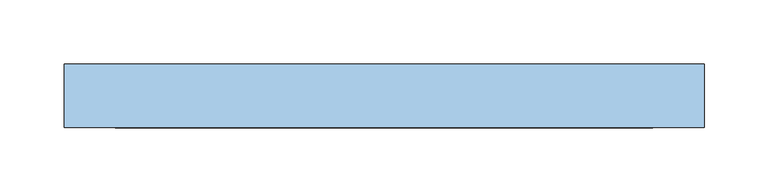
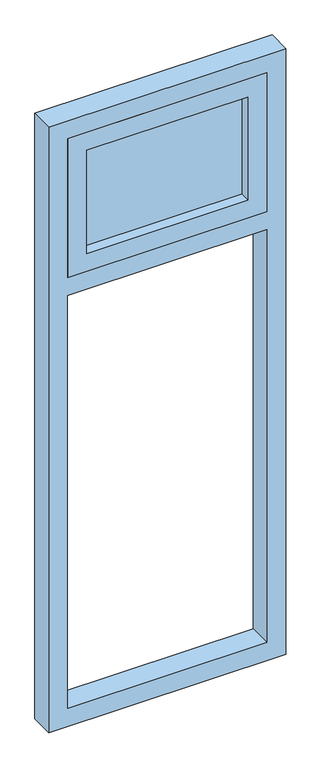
"""IFC4 building model written with IfcOpenShell, lengths in millimetres: window geometry, VENT_ALUM_PROY_ARRIBA : V10-VENT_ALUM_PROY_ARRIBA BAÑO."""

from ifc_helpers import new_model, si_unit, frame, origin, place, context, project, spatial, polyline, outline, extrude, source, transform, mapped, element, save


def window_504e83ce(model_context):
    return source(origin(), model_context, "Body", "SweptSolid", [
        extrude(outline(polyline([(1500.0, -210.0), (1500.0, 210.0), (1810.0, 210.0), (1810.0, -210.0), (1500.0, -210.0)]), holes=[polyline([(1770.0, -170.0), (1770.0, 170.0), (1540.0, 170.0), (1540.0, -170.0), (1770.0, -170.0)])]), frame((0.0, -25.0, 0.0), z_axis=(0.0, 1.0, 0.0), x_axis=(0.0, 0.0, 1.0)), (0.0, 0.0, 1.0), 50.0),
        extrude(outline(polyline([(210.0, -3.0), (-210.0, -3.0), (-210.0, 3.0), (210.0, 3.0), (210.0, -3.0)])), frame((0.0, 0.0, 1540.0), z_axis=(0.0, 0.0, 1.0), x_axis=(1.0, 0.0, 0.0)), (0.0, 0.0, 1.0), 270.0),
        extrude(outline(polyline([(1850.0, -250.0), (500.0, -250.0), (500.0, 250.0), (1850.0, 250.0), (1850.0, -250.0)]), holes=[polyline([(1460.0, -210.0), (1460.0, 210.0), (540.0, 210.0), (540.0, -210.0), (1460.0, -210.0)]), polyline([(1500.0, 210.0), (1500.0, -210.0), (1810.0, -210.0), (1810.0, 210.0), (1500.0, 210.0)])]), frame((0.0, -25.0, 0.0), z_axis=(0.0, 1.0, 0.0), x_axis=(0.0, 0.0, 1.0)), (0.0, 0.0, 1.0), 50.0),
    ])


if __name__ == "__main__":
    model = new_model("IFC4")
    model_context = context("Model", 3, world=origin())
    ifc_project = project(units=[si_unit("LENGTHUNIT", "METRE", prefix="MILLI")], contexts=[model_context])
    site = spatial("IfcSite", under=ifc_project)
    building = spatial("IfcBuilding", under=site)
    placement = place(None, origin())
    window_shape = window_504e83ce(model_context)
    element("IfcWindow", 1, ObjectType="VENT_ALUM_PROY_ARRIBA : V10-VENT_ALUM_PROY_ARRIBA BAÑO", at=placement, inside=building, context=model_context, shape_type="MappedRepresentation", body=[
        mapped(window_shape, transform((0.0, 0.0, 0.0), x_axis=(1.0, 0.0, 0.0), y_axis=(0.0, 1.0, 0.0), z_axis=(0.0, 0.0, 1.0))),
    ])
    save(model, "model.ifc")
